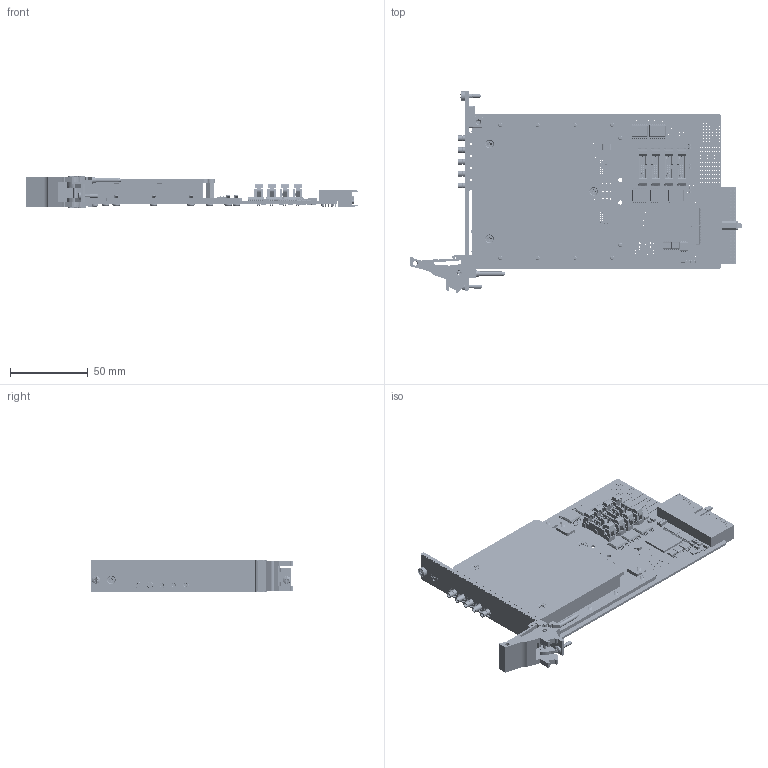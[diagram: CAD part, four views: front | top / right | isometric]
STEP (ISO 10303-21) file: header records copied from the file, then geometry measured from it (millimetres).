
FILE_DESCRIPTION (( 'STEP AP203' ), '1' );
FILE_NAME ('40-872A-001 PXI RF Multiplexer Single 4-Channel 3GHz 50Ohms SMB.STEP', '2025-07-10T14:26:16', ( '' ), ( '' ), 'SwSTEP 2.0', 'SolidWorks 2023', '' );
FILE_SCHEMA (( 'CONFIG_CONTROL_DESIGN' ));
Length unit declared in the file: millimetre
Products named in the file (71): C-CP-034; C-FX-025 Pcb Mounting Bracket; C-IC-458 LDO VOLTAGE REGULATOR 1.2V SOT; C-RS-088 Res 390R 0603; C-IC-369 FPGA 17000 Cells 65nm Technology 1.2V 256-Pin FTBGA; C-CN-107-BODY; C-FP-608 FP 3U 1 SLOT 5 x SMB 4X1; A-FP-608-L1 PXI 1 SLT 5xSMB FP Full Assembly; C-CP-141 CAP 10UF 1206 35V X5R 10%; A-PC-564-V01 RF MULTIPLEXER 50R 4-1 ; A-FP-608 PXI 1 SLT 5xSMB FP+Label Assembly; C-CN-923-BODY; C-CN-107-PIN; C-FX-1176 M2,5 Collar Posi-Slot Screw; C-RS-152 Res 10K 0603 1-16W 1% 300PPM; C-PC-1323 RF MUX MOTHERBOARD WITH PXIe; C-FX-101 Screw, M2.5 x 6, Pan Hd, Pozi, Steel, BZP; A-PC-1323-A RF MUX MOTHERBOARD; C-RL-230 50 OHM 5V SMT RF RELAY_no text; A-PC-1323-A-# RF MUX MOTHERBOARD; C-FX-165 Handle Body; C-IC-124 16-Bit Constant Current Sink Driver; C-CN-355 Compact pci connector 3_Render; C-SC-146 Dual Transistor SOT-14; C-CP-124 CAP 10nF CERAMIC SMT 0402; C-FX-165 Handle Pin; C-FX-165 Handle Finger; C-CP-139 CAP 4.7UF 1206 16V X7R 10%; C-FX-835 PXI RF Screening Plate; C-FX-683 RF Mother and Daughter Screen without Pickering Logo_bENDS; C-IC-598 64Mbit Flash Memory 8-Pin SOIC; C-FX-165 CPCI Ejector Handle; C-RS-147 Res 100R 0603 1-16W 1% 100PPM; C-FX-552 FP Mother & Daughter Clamp L; C-RS-148 Res 1K 0603 1-16W 1% 100PPM; C-CP-239  Power Line Filter; C-RS-659 RES NW 4K7 4RES 8PINS SMT1206; C-CN-897 2x8 way Connector 1.27 pitch; G-FP-608 PXI Single Row 10xSMB RF Laser Cut Gasket_5 Holes ; C-CN-923-PIN1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
Assembly tree (222 placements, depth 5):
  40-872A-001 PXI RF Multiplexer Single 4-Channel 3GHz 50Ohms SMB
    A-PC-1323-A RF MUX MOTHERBOARD
      A-PC-1323-A-# RF MUX MOTHERBOARD
        C-PC-1323 RF MUX MOTHERBOARD WITH PXIe
        C-CN-355 Compact pci connector 3_Render
        C-CN-897 2x8 way Connector 1.27 pitch  x4
        C-CN-1071
          C-CN-107-BODY
          C-CN-107-PIN  x8
        C-CP-034  x25
        C-CP-099 CAP 0.1uF 16V 0402 SMT  x12
        C-CP-124 CAP 10nF CERAMIC SMT 0402  x29
        C-CP-130 CAP 1uF CERAMIC SMT 0603  x2
        C-CP-139 CAP 4.7UF 1206 16V X7R 10%  x2
        C-CP-141 CAP 10UF 1206 35V X5R 10%  x7
        C-CP-175 CAP 22uF 1206 25V X5R 10%  x2
        C-CP-239  Power Line Filter  x3
        C-IC-338 4-Channel Digital Isolator 16-Pin SOIC W  x5
        C-IC-369 FPGA 17000 Cells 65nm Technology 1.2V 256-Pin FTBGA
        C-IC-425 SOICN 8PIN SD
        C-IC-442 VSSOP 8PIN SD
        C-IC-458 LDO VOLTAGE REGULATOR 1.2V SOT
        C-IC-546 24 BIT BUS SWITCH 56PIN TVSOP  x2
        C-MS-803 BEAD 120R 0603 2A 0R05 25%  x2
        C-RS-147 Res 100R 0603 1-16W 1% 100PPM
        C-RS-148 Res 1K 0603 1-16W 1% 100PPM  x2
        C-RS-152 Res 10K 0603 1-16W 1% 300PPM  x2
        C-RS-190 Res 0R0 SIZE 0603 SMT
        C-RS-521 Res 120R (0603) 1-16W 1% 100pp
        C-RS-659 RES NW 4K7 4RES 8PINS SMT1206  x4
        C-SC-146 Dual Transistor SOT-14  x2
        C-IC-489 F-RAM Semiconductor Serial-I2C FRAM Memory 512kbit 2-3.6 V 8-Pin SOIC
        C-IC-598 64Mbit Flash Memory 8-Pin SOIC
    A-PC-564-V01 RF MULTIPLEXER 50R 4-1 
      A-PC-564-# RF MULTIPLEXER 50r 4-1 (cz)
        C-PC-564 RF dual 4_1 Daughter Card PCB
        C-IC-124 16-Bit Constant Current Sink Driver
        C-RS-088 Res 390R 0603
        C-CP-034  x13
        C-RS-147 Res 100R 0603 1-16W 1% 100PPM
        C-CN-923 2x8 Right Angle SMT Connector Header  x2
          C-CN-923-BODY
          C-CN-923-PIN1
          C-CN-923-PIN1
          C-CN-923-PIN2
        C-RL-230 50 OHM 5V SMT RF RELAY_no text  x6
      C-CN-930 SMB EDGE CARD PCB REC 50 OHM  x5
    A-FP-608-L1 PXI 1 SLT 5xSMB FP Full Assembly
      A-FP-608 PXI 1 SLT 5xSMB FP+Label Assembly
        C-FP-608 FP 3U 1 SLOT 5 x SMB 4X1
          C-BP-015 PXI 3U x 1 Slot Blank Panel
        L-FP-608 PXI 1 SLT 5xSMB Label Assy
          L-FP-608-# PXI 1 SLT 5xSMB FP Label
      C-FX-165 CPCI Ejector Handle
        C-FX-165 Handle Body
        C-FX-165 Handle Finger
        C-FX-165 Handle Pin
        P-FX-017 M2,5 Collar Posi-Slot Screw
        L-FX-165 PXI Handle Label
      Z-FX-2001 FP Fixing - Bush + Screw
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Bounding box: 213.7 x 129.63 x 20.01 mm (x, y, z)
Volume: 80035 mm3; surface area: 110786.7 mm2
Topology: 237 solids, 273 shells, 22009 faces, 55923 edges, 35227 vertices
Faces by surface type: plane 12436, cylinder 6839, cone 1829, torus 666, bspline 203, sphere 36
Entity records: 415101 total; most frequent: CARTESIAN_POINT 72759, DIRECTION 71486, ORIENTED_EDGE 65990, EDGE_CURVE 32997, AXIS2_PLACEMENT_3D 25982, VERTEX_POINT 21103, LINE 19522, VECTOR 19522
